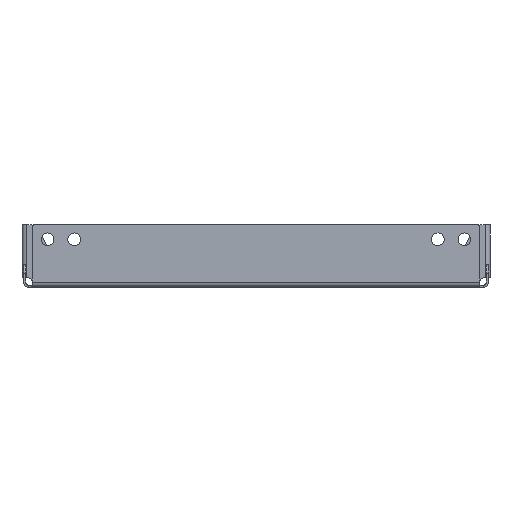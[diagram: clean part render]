
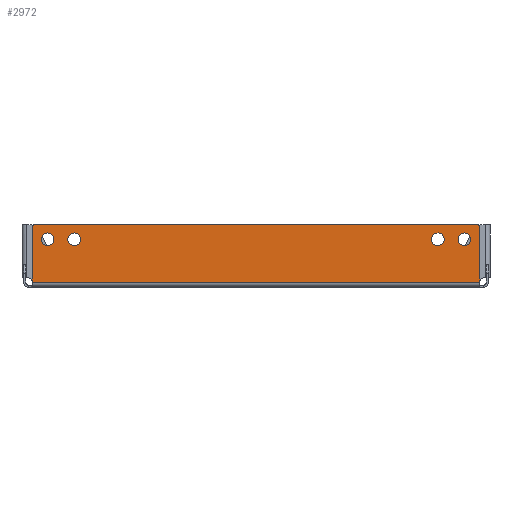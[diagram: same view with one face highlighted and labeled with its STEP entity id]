
A CAD part, top view. The second image highlights one B-rep face of the part: STEP entity #2972.
In plain terms, the highlighted planar face has unit normal (0, 0, 1).
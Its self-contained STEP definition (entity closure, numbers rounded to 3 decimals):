
#2034=AXIS2_PLACEMENT_3D('Circle Axis2P3D',#2032,#2033,$) ;
#2074=AXIS2_PLACEMENT_3D('Circle Axis2P3D',#2072,#2073,$) ;
#2105=AXIS2_PLACEMENT_3D('Circle Axis2P3D',#2103,#2104,$) ;
#2153=AXIS2_PLACEMENT_3D('Circle Axis2P3D',#2151,#2152,$) ;
#2179=AXIS2_PLACEMENT_3D('Circle Axis2P3D',#2177,#2178,$) ;
#2238=AXIS2_PLACEMENT_3D('Circle Axis2P3D',#2236,#2237,$) ;
#2283=AXIS2_PLACEMENT_3D('Circle Axis2P3D',#2281,#2282,$) ;
#2309=AXIS2_PLACEMENT_3D('Circle Axis2P3D',#2307,#2308,$) ;
#2336=AXIS2_PLACEMENT_3D('Circle Axis2P3D',#2334,#2335,$) ;
#2362=AXIS2_PLACEMENT_3D('Circle Axis2P3D',#2360,#2361,$) ;
#2410=AXIS2_PLACEMENT_3D('Circle Axis2P3D',#2408,#2409,$) ;
#2469=AXIS2_PLACEMENT_3D('Circle Axis2P3D',#2467,#2468,$) ;
#2486=AXIS2_PLACEMENT_3D('Circle Axis2P3D',#2484,#2485,$) ;
#2905=AXIS2_PLACEMENT_3D('Plane Axis2P3D',#2902,#2903,#2904) ;
#1998=CARTESIAN_POINT('Vertex',(-138.5,-686.013,1054.9)) ;
#2012=CARTESIAN_POINT('Vertex',(-552.5,-686.013,1054.9)) ;
#2015=CARTESIAN_POINT('Line Origine',(-345.5,-686.013,1054.9)) ;
#2032=CARTESIAN_POINT('Axis2P3D Location',(-516.,-700.013,1054.9)) ;
#2036=CARTESIAN_POINT('Vertex',(-522.,-700.013,1054.9)) ;
#2038=CARTESIAN_POINT('Vertex',(-510.,-700.013,1054.9)) ;
#2072=CARTESIAN_POINT('Axis2P3D Location',(-516.,-700.013,1054.9)) ;
#2098=CARTESIAN_POINT('Vertex',(-172.123,-705.28,1054.9)) ;
#2103=CARTESIAN_POINT('Axis2P3D Location',(-175.,-700.014,1054.9)) ;
#2107=CARTESIAN_POINT('Vertex',(-169.735,-697.138,1054.9)) ;
#2148=CARTESIAN_POINT('Vertex',(-180.265,-702.891,1054.9)) ;
#2151=CARTESIAN_POINT('Axis2P3D Location',(-175.,-700.014,1054.9)) ;
#2172=CARTESIAN_POINT('Vertex',(-177.877,-694.749,1054.9)) ;
#2177=CARTESIAN_POINT('Axis2P3D Location',(-175.,-700.014,1054.9)) ;
#2208=CARTESIAN_POINT('Control Point',(-169.735,-697.138,1054.9)) ;
#2209=CARTESIAN_POINT('Control Point',(-170.638,-695.483,1054.9)) ;
#2210=CARTESIAN_POINT('Control Point',(-172.19,-694.181,1054.9)) ;
#2211=CARTESIAN_POINT('Control Point',(-174.213,-693.588,1054.9)) ;
#2212=CARTESIAN_POINT('Control Point',(-176.222,-693.845,1054.9)) ;
#2213=CARTESIAN_POINT('Control Point',(-177.877,-694.749,1054.9)) ;
#2231=CARTESIAN_POINT('Vertex',(-541.,-706.013,1054.9)) ;
#2236=CARTESIAN_POINT('Axis2P3D Location',(-541.,-700.013,1054.9)) ;
#2240=CARTESIAN_POINT('Vertex',(-535.,-700.013,1054.9)) ;
#2278=CARTESIAN_POINT('Vertex',(-547.,-700.013,1054.9)) ;
#2281=CARTESIAN_POINT('Axis2P3D Location',(-541.,-700.013,1054.9)) ;
#2302=CARTESIAN_POINT('Vertex',(-541.,-694.013,1054.9)) ;
#2307=CARTESIAN_POINT('Axis2P3D Location',(-541.,-700.013,1054.9)) ;
#2334=CARTESIAN_POINT('Axis2P3D Location',(-541.,-700.013,1054.9)) ;
#2357=CARTESIAN_POINT('Vertex',(-150.,-706.013,1054.9)) ;
#2360=CARTESIAN_POINT('Axis2P3D Location',(-150.,-700.013,1054.9)) ;
#2364=CARTESIAN_POINT('Vertex',(-144.,-700.013,1054.9)) ;
#2405=CARTESIAN_POINT('Vertex',(-156.,-700.013,1054.9)) ;
#2408=CARTESIAN_POINT('Axis2P3D Location',(-150.,-700.013,1054.9)) ;
#2431=CARTESIAN_POINT('Vertex',(-150.,-694.013,1054.9)) ;
#2435=CARTESIAN_POINT('Control Point',(-156.,-700.013,1054.9)) ;
#2436=CARTESIAN_POINT('Control Point',(-156.,-698.128,1054.9)) ;
#2437=CARTESIAN_POINT('Control Point',(-155.262,-696.241,1054.9)) ;
#2438=CARTESIAN_POINT('Control Point',(-153.772,-694.751,1054.9)) ;
#2439=CARTESIAN_POINT('Control Point',(-151.885,-694.013,1054.9)) ;
#2440=CARTESIAN_POINT('Control Point',(-150.,-694.013,1054.9)) ;
#2467=CARTESIAN_POINT('Axis2P3D Location',(-150.,-700.013,1054.9)) ;
#2484=CARTESIAN_POINT('Axis2P3D Location',(-552.5,-689.013,1054.9)) ;
#2488=CARTESIAN_POINT('Vertex',(-555.5,-689.013,1054.9)) ;
#2902=CARTESIAN_POINT('Axis2P3D Location',(-559.,-745.013,1054.9)) ;
#2907=CARTESIAN_POINT('Line Origine',(-555.5,-714.513,1054.9)) ;
#2911=CARTESIAN_POINT('Vertex',(-555.5,-740.013,1054.9)) ;
#2914=CARTESIAN_POINT('Line Origine',(-345.5,-740.013,1054.9)) ;
#2918=CARTESIAN_POINT('Vertex',(-135.5,-740.013,1054.9)) ;
#2921=CARTESIAN_POINT('Line Origine',(-135.5,-714.513,1054.9)) ;
#2925=CARTESIAN_POINT('Vertex',(-135.5,-689.013,1054.9)) ;
#2929=CARTESIAN_POINT('Control Point',(-138.5,-686.013,1054.9)) ;
#2930=CARTESIAN_POINT('Control Point',(-138.161,-686.013,1054.9)) ;
#2931=CARTESIAN_POINT('Control Point',(-137.821,-686.061,1054.9)) ;
#2932=CARTESIAN_POINT('Control Point',(-137.491,-686.157,1054.9)) ;
#2933=CARTESIAN_POINT('Control Point',(-136.866,-686.44,1054.9)) ;
#2934=CARTESIAN_POINT('Control Point',(-136.345,-686.885,1054.9)) ;
#2935=CARTESIAN_POINT('Control Point',(-136.117,-687.143,1054.9)) ;
#2936=CARTESIAN_POINT('Control Point',(-135.784,-687.652,1054.9)) ;
#2937=CARTESIAN_POINT('Control Point',(-135.587,-688.226,1054.9)) ;
#2938=CARTESIAN_POINT('Control Point',(-135.529,-688.486,1054.9)) ;
#2939=CARTESIAN_POINT('Control Point',(-135.5,-688.749,1054.9)) ;
#2940=CARTESIAN_POINT('Control Point',(-135.5,-689.013,1054.9)) ;
#2016=DIRECTION('Vector Direction',(1.,0.,0.)) ;
#2033=DIRECTION('Axis2P3D Direction',(0.,0.,-1.)) ;
#2073=DIRECTION('Axis2P3D Direction',(0.,0.,-1.)) ;
#2104=DIRECTION('Axis2P3D Direction',(0.,0.,1.)) ;
#2152=DIRECTION('Axis2P3D Direction',(0.,0.,1.)) ;
#2178=DIRECTION('Axis2P3D Direction',(0.,0.,1.)) ;
#2237=DIRECTION('Axis2P3D Direction',(0.,0.,1.)) ;
#2282=DIRECTION('Axis2P3D Direction',(0.,0.,1.)) ;
#2308=DIRECTION('Axis2P3D Direction',(0.,0.,1.)) ;
#2335=DIRECTION('Axis2P3D Direction',(0.,0.,1.)) ;
#2361=DIRECTION('Axis2P3D Direction',(0.,0.,-1.)) ;
#2409=DIRECTION('Axis2P3D Direction',(0.,0.,-1.)) ;
#2468=DIRECTION('Axis2P3D Direction',(0.,0.,-1.)) ;
#2485=DIRECTION('Axis2P3D Direction',(0.,0.,1.)) ;
#2903=DIRECTION('Axis2P3D Direction',(0.,0.,1.)) ;
#2904=DIRECTION('Axis2P3D XDirection',(1.,0.,0.)) ;
#2908=DIRECTION('Vector Direction',(0.,-1.,0.)) ;
#2915=DIRECTION('Vector Direction',(-1.,0.,0.)) ;
#2922=DIRECTION('Vector Direction',(0.,-1.,0.)) ;
#2017=VECTOR('Line Direction',#2016,1.) ;
#2909=VECTOR('Line Direction',#2908,1.) ;
#2916=VECTOR('Line Direction',#2915,1.) ;
#2923=VECTOR('Line Direction',#2922,1.) ;
#2943=ORIENTED_EDGE('',*,*,#2019,.T.) ;
#2944=ORIENTED_EDGE('',*,*,#2490,.F.) ;
#2945=ORIENTED_EDGE('',*,*,#2913,.T.) ;
#2946=ORIENTED_EDGE('',*,*,#2920,.F.) ;
#2947=ORIENTED_EDGE('',*,*,#2927,.F.) ;
#2948=ORIENTED_EDGE('',*,*,#2941,.T.) ;
#2951=ORIENTED_EDGE('',*,*,#2040,.F.) ;
#2952=ORIENTED_EDGE('',*,*,#2076,.F.) ;
#2955=ORIENTED_EDGE('',*,*,#2109,.F.) ;
#2956=ORIENTED_EDGE('',*,*,#2155,.F.) ;
#2957=ORIENTED_EDGE('',*,*,#2181,.T.) ;
#2958=ORIENTED_EDGE('',*,*,#2214,.T.) ;
#2961=ORIENTED_EDGE('',*,*,#2242,.F.) ;
#2962=ORIENTED_EDGE('',*,*,#2285,.F.) ;
#2963=ORIENTED_EDGE('',*,*,#2311,.T.) ;
#2964=ORIENTED_EDGE('',*,*,#2338,.T.) ;
#2967=ORIENTED_EDGE('',*,*,#2366,.F.) ;
#2968=ORIENTED_EDGE('',*,*,#2412,.F.) ;
#2969=ORIENTED_EDGE('',*,*,#2441,.T.) ;
#2970=ORIENTED_EDGE('',*,*,#2471,.T.) ;
#2953=FACE_BOUND('',#2950,.T.) ;
#2959=FACE_BOUND('',#2954,.T.) ;
#2965=FACE_BOUND('',#2960,.T.) ;
#2971=FACE_BOUND('',#2966,.T.) ;
#2972=ADVANCED_FACE('\X2\51E04F554F53\X0\.76',(#2949,#2953,#2959,#2965,#2971),#2906,.T.) ;
#2207=B_SPLINE_CURVE_WITH_KNOTS('',5,(#2208,#2209,#2210,#2211,#2212,#2213),.UNSPECIFIED.,.F.,.U.,(6,6),(-4.712,4.712),.UNSPECIFIED.) ;
#2434=B_SPLINE_CURVE_WITH_KNOTS('',5,(#2435,#2436,#2437,#2438,#2439,#2440),.UNSPECIFIED.,.F.,.U.,(6,6),(-4.712,4.712),.UNSPECIFIED.) ;
#2928=B_SPLINE_CURVE_WITH_KNOTS('',5,(#2929,#2930,#2931,#2932,#2933,#2934,#2935,#2936,#2937,#2938,#2939,#2940),.UNSPECIFIED.,.F.,.U.,(6,3,3,6),(0.,2.407,4.814,6.684),.UNSPECIFIED.) ;
#2035=CIRCLE('generated circle',#2034,6.) ;
#2075=CIRCLE('generated circle',#2074,6.) ;
#2106=CIRCLE('generated circle',#2105,6.) ;
#2154=CIRCLE('generated circle',#2153,6.) ;
#2180=CIRCLE('generated circle',#2179,6.) ;
#2239=CIRCLE('generated circle',#2238,6.) ;
#2284=CIRCLE('generated circle',#2283,6.) ;
#2310=CIRCLE('generated circle',#2309,6.) ;
#2337=CIRCLE('generated circle',#2336,6.) ;
#2363=CIRCLE('generated circle',#2362,6.) ;
#2411=CIRCLE('generated circle',#2410,6.) ;
#2470=CIRCLE('generated circle',#2469,6.) ;
#2487=CIRCLE('generated circle',#2486,3.) ;
#2019=EDGE_CURVE('',#1999,#2013,#2018,.F.) ;
#2040=EDGE_CURVE('',#2037,#2039,#2035,.F.) ;
#2076=EDGE_CURVE('',#2039,#2037,#2075,.F.) ;
#2109=EDGE_CURVE('',#2099,#2108,#2106,.T.) ;
#2155=EDGE_CURVE('',#2149,#2099,#2154,.T.) ;
#2181=EDGE_CURVE('',#2149,#2173,#2180,.F.) ;
#2214=EDGE_CURVE('',#2173,#2108,#2207,.F.) ;
#2242=EDGE_CURVE('',#2232,#2241,#2239,.T.) ;
#2285=EDGE_CURVE('',#2279,#2232,#2284,.T.) ;
#2311=EDGE_CURVE('',#2279,#2303,#2310,.F.) ;
#2338=EDGE_CURVE('',#2303,#2241,#2337,.F.) ;
#2366=EDGE_CURVE('',#2358,#2365,#2363,.F.) ;
#2412=EDGE_CURVE('',#2406,#2358,#2411,.F.) ;
#2441=EDGE_CURVE('',#2406,#2432,#2434,.T.) ;
#2471=EDGE_CURVE('',#2432,#2365,#2470,.T.) ;
#2490=EDGE_CURVE('',#2489,#2013,#2487,.F.) ;
#2913=EDGE_CURVE('',#2489,#2912,#2910,.T.) ;
#2920=EDGE_CURVE('',#2919,#2912,#2917,.T.) ;
#2927=EDGE_CURVE('',#2926,#2919,#2924,.T.) ;
#2941=EDGE_CURVE('',#2926,#1999,#2928,.F.) ;
#2942=EDGE_LOOP('',(#2943,#2944,#2945,#2946,#2947,#2948)) ;
#2950=EDGE_LOOP('',(#2951,#2952)) ;
#2954=EDGE_LOOP('',(#2955,#2956,#2957,#2958)) ;
#2960=EDGE_LOOP('',(#2961,#2962,#2963,#2964)) ;
#2966=EDGE_LOOP('',(#2967,#2968,#2969,#2970)) ;
#2949=FACE_OUTER_BOUND('',#2942,.T.) ;
#2018=LINE('Line',#2015,#2017) ;
#2910=LINE('Line',#2907,#2909) ;
#2917=LINE('Line',#2914,#2916) ;
#2924=LINE('Line',#2921,#2923) ;
#2906=PLANE('Plane',#2905) ;
#1999=VERTEX_POINT('',#1998) ;
#2013=VERTEX_POINT('',#2012) ;
#2037=VERTEX_POINT('',#2036) ;
#2039=VERTEX_POINT('',#2038) ;
#2099=VERTEX_POINT('',#2098) ;
#2108=VERTEX_POINT('',#2107) ;
#2149=VERTEX_POINT('',#2148) ;
#2173=VERTEX_POINT('',#2172) ;
#2232=VERTEX_POINT('',#2231) ;
#2241=VERTEX_POINT('',#2240) ;
#2279=VERTEX_POINT('',#2278) ;
#2303=VERTEX_POINT('',#2302) ;
#2358=VERTEX_POINT('',#2357) ;
#2365=VERTEX_POINT('',#2364) ;
#2406=VERTEX_POINT('',#2405) ;
#2432=VERTEX_POINT('',#2431) ;
#2489=VERTEX_POINT('',#2488) ;
#2912=VERTEX_POINT('',#2911) ;
#2919=VERTEX_POINT('',#2918) ;
#2926=VERTEX_POINT('',#2925) ;
